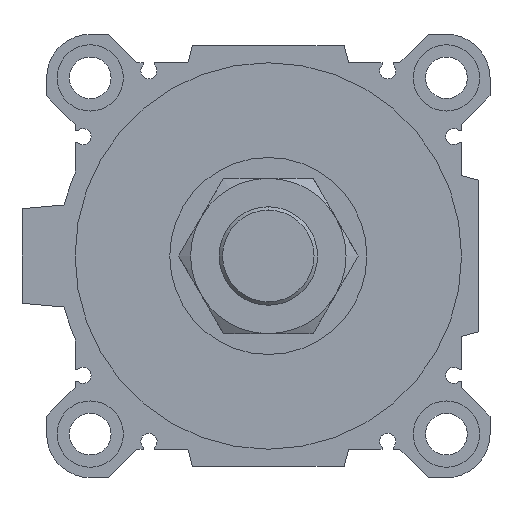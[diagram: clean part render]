
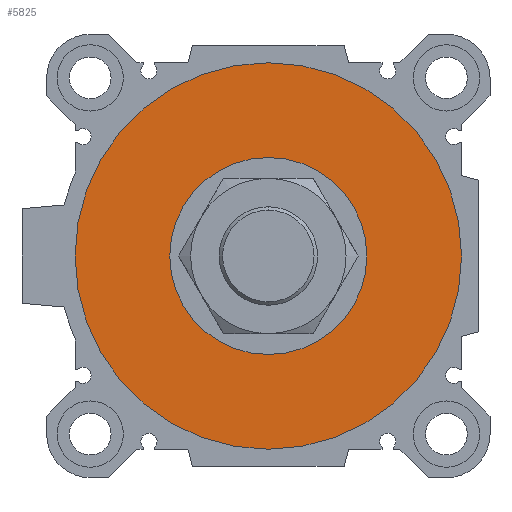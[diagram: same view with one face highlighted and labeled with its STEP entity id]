
A CAD part, left-side view. The second image highlights one B-rep face of the part: STEP entity #5825.
In plain terms, the highlighted planar face has unit normal (-1, 0, 0).
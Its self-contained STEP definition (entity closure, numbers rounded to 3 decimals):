
#240 = CIRCLE ( 'NONE', #3934, 51. ) ;
#301 = DIRECTION ( 'NONE',  ( 0., 0., -1. ) ) ;
#453 = CARTESIAN_POINT ( 'NONE',  ( 6.5, 0., 0. ) ) ;
#475 = AXIS2_PLACEMENT_3D ( 'NONE', #3781, #4865, #6693 ) ;
#636 = EDGE_CURVE ( 'NONE', #6140, #1726, #240, .T. ) ;
#765 = CARTESIAN_POINT ( 'NONE',  ( 6.5, 0., -26. ) ) ;
#959 = DIRECTION ( 'NONE',  ( 0., 0., -1. ) ) ;
#990 = EDGE_LOOP ( 'NONE', ( #7482, #3924 ) ) ;
#1062 = CARTESIAN_POINT ( 'NONE',  ( 6.5, 0., -51. ) ) ;
#1186 = VERTEX_POINT ( 'NONE', #4002 ) ;
#1608 = FACE_OUTER_BOUND ( 'NONE', #990, .T. ) ;
#1726 = VERTEX_POINT ( 'NONE', #1062 ) ;
#2612 = CARTESIAN_POINT ( 'NONE',  ( 6.5, 0., 0. ) ) ;
#3082 = CARTESIAN_POINT ( 'NONE',  ( 6.5, 0., 51. ) ) ;
#3648 = ORIENTED_EDGE ( 'NONE', *, *, #6568, .T. ) ;
#3781 = CARTESIAN_POINT ( 'NONE',  ( 6.5, 0., 0. ) ) ;
#3924 = ORIENTED_EDGE ( 'NONE', *, *, #7287, .F. ) ;
#3926 = CIRCLE ( 'NONE', #475, 26. ) ;
#3934 = AXIS2_PLACEMENT_3D ( 'NONE', #5804, #5060, #301 ) ;
#4002 = CARTESIAN_POINT ( 'NONE',  ( 6.5, 0., 26. ) ) ;
#4052 = PLANE ( 'NONE',  #4809 ) ;
#4062 = EDGE_CURVE ( 'NONE', #1186, #7124, #5978, .T. ) ;
#4163 = CARTESIAN_POINT ( 'NONE',  ( 6.5, 0., 0. ) ) ;
#4205 = ORIENTED_EDGE ( 'NONE', *, *, #4062, .T. ) ;
#4690 = DIRECTION ( 'NONE',  ( 1., 0., 0. ) ) ;
#4809 = AXIS2_PLACEMENT_3D ( 'NONE', #453, #5959, #7714 ) ;
#4865 = DIRECTION ( 'NONE',  ( 1., 0., 0. ) ) ;
#4883 = CIRCLE ( 'NONE', #5140, 51. ) ;
#5060 = DIRECTION ( 'NONE',  ( 1., 0., 0. ) ) ;
#5140 = AXIS2_PLACEMENT_3D ( 'NONE', #4163, #4690, #959 ) ;
#5804 = CARTESIAN_POINT ( 'NONE',  ( 6.5, 0., 0. ) ) ;
#5825 = ADVANCED_FACE ( 'NONE', ( #1608, #7080 ), #4052, .F. ) ;
#5959 = DIRECTION ( 'NONE',  ( 1., 0., 0. ) ) ;
#5978 = CIRCLE ( 'NONE', #7252, 26. ) ;
#6140 = VERTEX_POINT ( 'NONE', #3082 ) ;
#6213 = DIRECTION ( 'NONE',  ( 0., 0., -1. ) ) ;
#6568 = EDGE_CURVE ( 'NONE', #7124, #1186, #3926, .T. ) ;
#6693 = DIRECTION ( 'NONE',  ( 0., 0., -1. ) ) ;
#7080 = FACE_BOUND ( 'NONE', #7161, .T. ) ;
#7124 = VERTEX_POINT ( 'NONE', #765 ) ;
#7161 = EDGE_LOOP ( 'NONE', ( #4205, #3648 ) ) ;
#7252 = AXIS2_PLACEMENT_3D ( 'NONE', #2612, #7570, #6213 ) ;
#7287 = EDGE_CURVE ( 'NONE', #1726, #6140, #4883, .T. ) ;
#7482 = ORIENTED_EDGE ( 'NONE', *, *, #636, .F. ) ;
#7570 = DIRECTION ( 'NONE',  ( 1., 0., 0. ) ) ;
#7714 = DIRECTION ( 'NONE',  ( 0., 1., 0. ) ) ;
